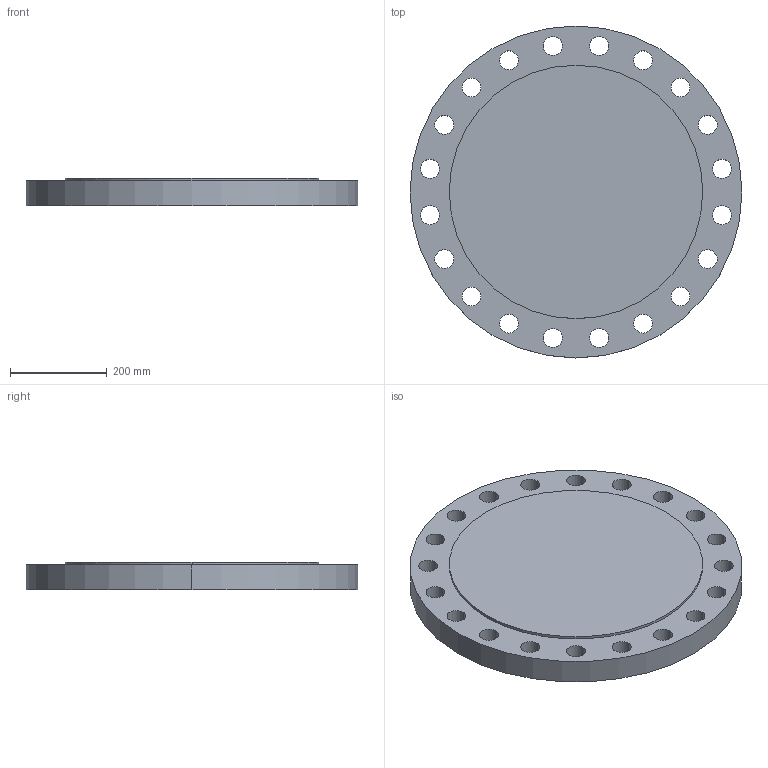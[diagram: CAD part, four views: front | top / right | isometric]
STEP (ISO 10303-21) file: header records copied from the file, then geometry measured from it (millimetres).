
FILE_DESCRIPTION (( 'STEP AP214' ), '1' );
FILE_NAME ('PN40 DN450 Type 05 - Type E Face.STEP', '2018-12-29T02:45:37', ( '' ), ( '' ), 'SwSTEP 2.0', 'SolidWorks 2019', '' );
FILE_SCHEMA (( 'AUTOMOTIVE_DESIGN' ));
Length unit declared in the file: millimetre
Products named in the file (1): PN40 DN450 Type 05 - Type E Face
Bounding box: 685 x 685 x 57 mm (x, y, z)
Volume: 18930347.5 mm3; surface area: 935335.4 mm2
Topology: 1 solids, 1 shells, 47 faces, 132 edges, 88 vertices
Faces by surface type: cylinder 44, plane 3
Entity records: 1688 total; most frequent: DIRECTION 316, CARTESIAN_POINT 268, ORIENTED_EDGE 264, AXIS2_PLACEMENT_3D 136, EDGE_CURVE 132, VERTEX_POINT 88, EDGE_LOOP 88, CIRCLE 88
